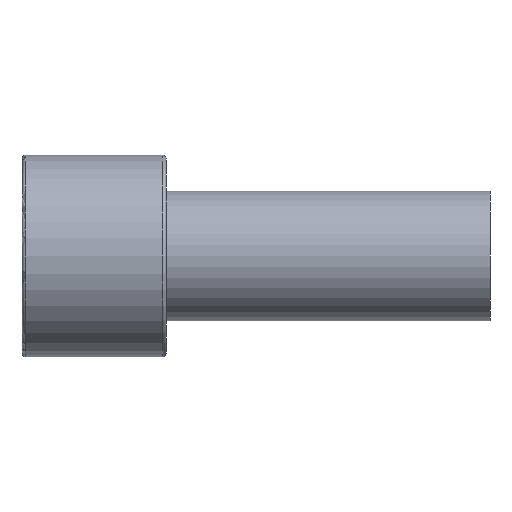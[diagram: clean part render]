
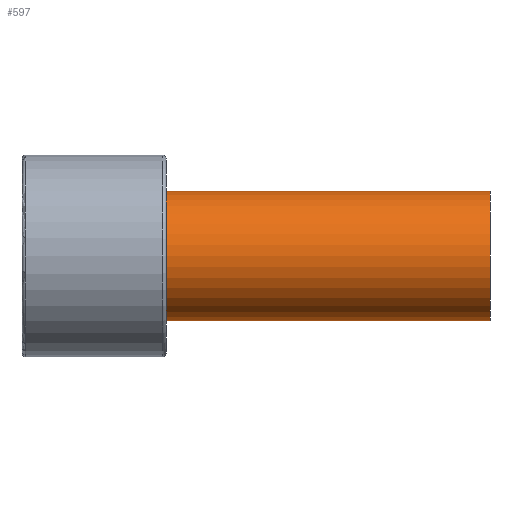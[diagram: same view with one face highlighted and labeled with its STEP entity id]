
A CAD part, front view. The second image highlights one B-rep face of the part: STEP entity #597.
In plain terms, the highlighted cylindrical face has radius 9 mm (diameter 18 mm), a partial arc.
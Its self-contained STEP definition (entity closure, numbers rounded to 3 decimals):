
#431=CARTESIAN_POINT('Vertex',(65.,0.,9.)) ;
#434=CARTESIAN_POINT('Axis2P3D Location',(65.,0.,0.)) ;
#438=CARTESIAN_POINT('Vertex',(65.,-9.,0.)) ;
#441=CARTESIAN_POINT('Axis2P3D Location',(65.,0.,0.)) ;
#445=CARTESIAN_POINT('Vertex',(65.,0.,-9.)) ;
#537=CARTESIAN_POINT('Line Origine',(65.,0.,9.)) ;
#541=CARTESIAN_POINT('Vertex',(20.,0.,9.)) ;
#544=CARTESIAN_POINT('Line Origine',(65.,0.,-9.)) ;
#548=CARTESIAN_POINT('Vertex',(20.,0.,-9.)) ;
#572=CARTESIAN_POINT('Axis2P3D Location',(65.,0.,0.)) ;
#577=CARTESIAN_POINT('Axis2P3D Location',(20.,0.,0.)) ;
#581=CARTESIAN_POINT('Vertex',(20.,-9.,0.)) ;
#584=CARTESIAN_POINT('Axis2P3D Location',(20.,0.,0.)) ;
#435=DIRECTION('Axis2P3D Direction',(1.,0.,-0.)) ;
#442=DIRECTION('Axis2P3D Direction',(1.,0.,-0.)) ;
#538=DIRECTION('Vector Direction',(-1.,0.,0.)) ;
#545=DIRECTION('Vector Direction',(-1.,0.,0.)) ;
#573=DIRECTION('Axis2P3D Direction',(-1.,-0.,-0.)) ;
#574=DIRECTION('Axis2P3D XDirection',(0.,0.,-1.)) ;
#578=DIRECTION('Axis2P3D Direction',(-1.,-0.,-0.)) ;
#585=DIRECTION('Axis2P3D Direction',(-1.,-0.,-0.)) ;
#436=AXIS2_PLACEMENT_3D('Circle Axis2P3D',#434,#435,$) ;
#443=AXIS2_PLACEMENT_3D('Circle Axis2P3D',#441,#442,$) ;
#575=AXIS2_PLACEMENT_3D('Cylinder Axis2P3D',#572,#573,#574) ;
#579=AXIS2_PLACEMENT_3D('Circle Axis2P3D',#577,#578,$) ;
#586=AXIS2_PLACEMENT_3D('Circle Axis2P3D',#584,#585,$) ;
#590=ORIENTED_EDGE('',*,*,#550,.T.) ;
#591=ORIENTED_EDGE('',*,*,#447,.F.) ;
#592=ORIENTED_EDGE('',*,*,#440,.F.) ;
#593=ORIENTED_EDGE('',*,*,#543,.T.) ;
#594=ORIENTED_EDGE('',*,*,#583,.T.) ;
#595=ORIENTED_EDGE('',*,*,#588,.T.) ;
#539=VECTOR('Line Direction',#538,1.) ;
#546=VECTOR('Line Direction',#545,1.) ;
#597=ADVANCED_FACE('367F-18X65',(#596),#576,.T.) ;
#437=CIRCLE('generated circle',#436,9.) ;
#444=CIRCLE('generated circle',#443,9.) ;
#580=CIRCLE('generated circle',#579,9.) ;
#587=CIRCLE('generated circle',#586,9.) ;
#576=CYLINDRICAL_SURFACE('generated cylinder',#575,9.) ;
#440=EDGE_CURVE('',#432,#439,#437,.T.) ;
#447=EDGE_CURVE('',#439,#446,#444,.T.) ;
#543=EDGE_CURVE('',#432,#542,#540,.T.) ;
#550=EDGE_CURVE('',#549,#446,#547,.F.) ;
#583=EDGE_CURVE('',#542,#582,#580,.F.) ;
#588=EDGE_CURVE('',#582,#549,#587,.F.) ;
#589=EDGE_LOOP('',(#590,#591,#592,#593,#594,#595)) ;
#596=FACE_OUTER_BOUND('',#589,.T.) ;
#540=LINE('Line',#537,#539) ;
#547=LINE('Line',#544,#546) ;
#432=VERTEX_POINT('',#431) ;
#439=VERTEX_POINT('',#438) ;
#446=VERTEX_POINT('',#445) ;
#542=VERTEX_POINT('',#541) ;
#549=VERTEX_POINT('',#548) ;
#582=VERTEX_POINT('',#581) ;
